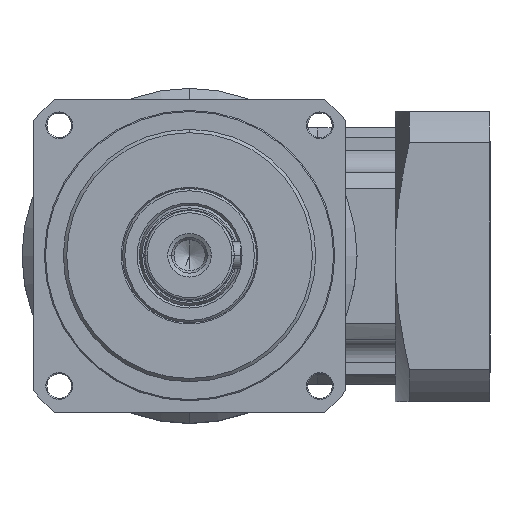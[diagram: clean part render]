
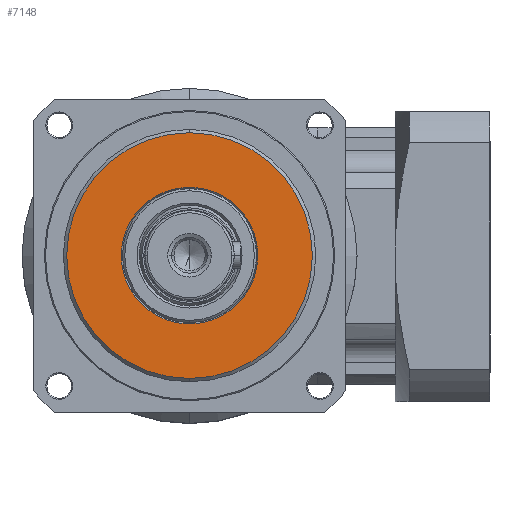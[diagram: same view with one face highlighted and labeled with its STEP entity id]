
A CAD part, top view. The second image highlights one B-rep face of the part: STEP entity #7148.
In plain terms, the highlighted planar face has unit normal (0, 0, 1).
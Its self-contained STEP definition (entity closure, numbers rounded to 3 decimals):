
#1892 = EDGE_CURVE ( 'NONE', #56677, #26160, #30956, .T. ) ;
#2027 = ORIENTED_EDGE ( 'NONE', *, *, #8932, .T. ) ;
#2370 = VERTEX_POINT ( 'NONE', #51997 ) ;
#3595 = CARTESIAN_POINT ( 'NONE',  ( 0., 0., 86. ) ) ;
#7064 = ORIENTED_EDGE ( 'NONE', *, *, #1892, .T. ) ;
#7146 = PLANE ( 'NONE',  #29936 ) ;
#7148 = ADVANCED_FACE ( 'NONE', ( #31597, #47510 ), #7146, .F. ) ;
#7289 = CARTESIAN_POINT ( 'NONE',  ( 0., 0., 86. ) ) ;
#8127 = CARTESIAN_POINT ( 'NONE',  ( 0., -30.577, 86. ) ) ;
#8218 = DIRECTION ( 'NONE',  ( 0., 0., 1. ) ) ;
#8416 = DIRECTION ( 'NONE',  ( 0., -1., 0. ) ) ;
#8932 = EDGE_CURVE ( 'NONE', #26160, #56677, #30373, .T. ) ;
#11886 = DIRECTION ( 'NONE',  ( 0., -1., 0. ) ) ;
#12327 = DIRECTION ( 'NONE',  ( 0., 0., 1. ) ) ;
#16349 = EDGE_CURVE ( 'NONE', #2370, #34190, #45926, .T. ) ;
#18173 = DIRECTION ( 'NONE',  ( 0., -1., 0. ) ) ;
#21614 = EDGE_CURVE ( 'NONE', #34190, #2370, #35270, .T. ) ;
#22168 = CARTESIAN_POINT ( 'NONE',  ( 0., 0., 86. ) ) ;
#26160 = VERTEX_POINT ( 'NONE', #55880 ) ;
#27327 = EDGE_LOOP ( 'NONE', ( #2027, #7064 ) ) ;
#27437 = DIRECTION ( 'NONE',  ( 0., 0., 1. ) ) ;
#27458 = CARTESIAN_POINT ( 'NONE',  ( 0., 0., 86. ) ) ;
#28537 = AXIS2_PLACEMENT_3D ( 'NONE', #22168, #27437, #41044 ) ;
#29867 = DIRECTION ( 'NONE',  ( 0., 0., 1. ) ) ;
#29936 = AXIS2_PLACEMENT_3D ( 'NONE', #30297, #34953, #43518 ) ;
#30297 = CARTESIAN_POINT ( 'NONE',  ( 30.577, 0., 86. ) ) ;
#30373 = CIRCLE ( 'NONE', #49142, 55. ) ;
#30956 = CIRCLE ( 'NONE', #51830, 55. ) ;
#31597 = FACE_BOUND ( 'NONE', #33919, .T. ) ;
#33919 = EDGE_LOOP ( 'NONE', ( #44882, #54415 ) ) ;
#34190 = VERTEX_POINT ( 'NONE', #8127 ) ;
#34953 = DIRECTION ( 'NONE',  ( 0., 0., -1. ) ) ;
#35270 = CIRCLE ( 'NONE', #47926, 30.577 ) ;
#41044 = DIRECTION ( 'NONE',  ( 0., -1., 0. ) ) ;
#43518 = DIRECTION ( 'NONE',  ( 0., 1., 0. ) ) ;
#44882 = ORIENTED_EDGE ( 'NONE', *, *, #21614, .F. ) ;
#45926 = CIRCLE ( 'NONE', #28537, 30.577 ) ;
#47510 = FACE_OUTER_BOUND ( 'NONE', #27327, .T. ) ;
#47926 = AXIS2_PLACEMENT_3D ( 'NONE', #7289, #29867, #11886 ) ;
#49142 = AXIS2_PLACEMENT_3D ( 'NONE', #27458, #12327, #18173 ) ;
#51830 = AXIS2_PLACEMENT_3D ( 'NONE', #3595, #8218, #8416 ) ;
#51997 = CARTESIAN_POINT ( 'NONE',  ( 0., 30.577, 86. ) ) ;
#54415 = ORIENTED_EDGE ( 'NONE', *, *, #16349, .F. ) ;
#55880 = CARTESIAN_POINT ( 'NONE',  ( 0., 55., 86. ) ) ;
#56677 = VERTEX_POINT ( 'NONE', #58128 ) ;
#58128 = CARTESIAN_POINT ( 'NONE',  ( 0., -55., 86. ) ) ;
